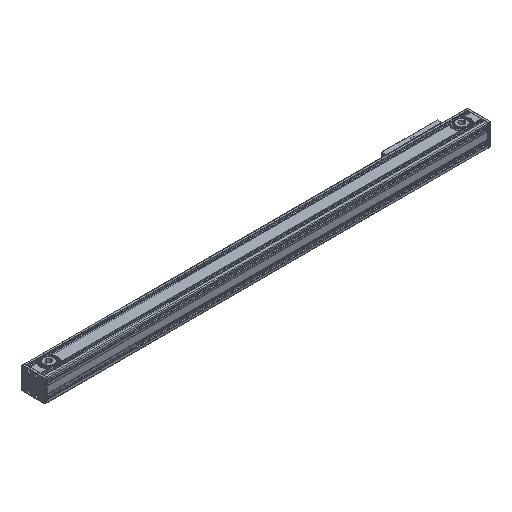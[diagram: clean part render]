
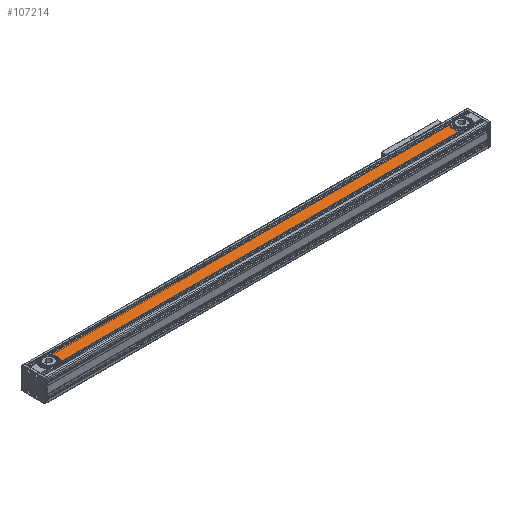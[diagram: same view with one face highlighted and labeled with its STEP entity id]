
A CAD part, isometric view. The second image highlights one B-rep face of the part: STEP entity #107214.
In plain terms, the highlighted planar face has unit normal (0, 0, 1).
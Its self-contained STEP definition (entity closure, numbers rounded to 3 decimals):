
#8891 = EDGE_CURVE ( 'NONE', #85697, #76551, #28688, .T. ) ;
#10035 = VECTOR ( 'NONE', #107902, 1000. ) ;
#19603 = DIRECTION ( 'NONE',  ( -1., 0., 0. ) ) ;
#21215 = VECTOR ( 'NONE', #19603, 1000. ) ;
#25401 = CARTESIAN_POINT ( 'NONE',  ( -164.672, 119.121, 83.366 ) ) ;
#27729 = VERTEX_POINT ( 'NONE', #112339 ) ;
#28688 = LINE ( 'NONE', #99982, #10035 ) ;
#29484 = LINE ( 'NONE', #109967, #21215 ) ;
#34642 = DIRECTION ( 'NONE',  ( 1., 0., 0. ) ) ;
#35258 = CIRCLE ( 'NONE', #58424, 31. ) ;
#39594 = DIRECTION ( 'NONE',  ( 1., 0., 0. ) ) ;
#55068 = PLANE ( 'NONE',  #71720 ) ;
#58424 = AXIS2_PLACEMENT_3D ( 'NONE', #114731, #102987, #83786 ) ;
#62938 = AXIS2_PLACEMENT_3D ( 'NONE', #129929, #110213, #39594 ) ;
#67347 = CARTESIAN_POINT ( 'NONE',  ( -91.244, 62.821, 83.366 ) ) ;
#71720 = AXIS2_PLACEMENT_3D ( 'NONE', #25401, #94742, #34642 ) ;
#76551 = VERTEX_POINT ( 'NONE', #121939 ) ;
#76916 = EDGE_CURVE ( 'NONE', #27729, #113781, #29484, .T. ) ;
#79914 = ORIENTED_EDGE ( 'NONE', *, *, #8891, .T. ) ;
#83188 = EDGE_CURVE ( 'NONE', #113781, #85697, #35258, .T. ) ;
#83786 = DIRECTION ( 'NONE',  ( -1., 0., 0. ) ) ;
#85697 = VERTEX_POINT ( 'NONE', #67347 ) ;
#90045 = ORIENTED_EDGE ( 'NONE', *, *, #83188, .T. ) ;
#91404 = ORIENTED_EDGE ( 'NONE', *, *, #111896, .F. ) ;
#94742 = DIRECTION ( 'NONE',  ( 0., 0., 1. ) ) ;
#98716 = CIRCLE ( 'NONE', #62938, 31. ) ;
#99982 = CARTESIAN_POINT ( 'NONE',  ( -164.672, 62.821, 83.366 ) ) ;
#102987 = DIRECTION ( 'NONE',  ( 0., 0., -1. ) ) ;
#107214 = ADVANCED_FACE ( 'NONE', ( #124337 ), #55068, .T. ) ;
#107902 = DIRECTION ( 'NONE',  ( 1., 0., 0. ) ) ;
#109967 = CARTESIAN_POINT ( 'NONE',  ( -164.672, 103.421, 83.366 ) ) ;
#110213 = DIRECTION ( 'NONE',  ( 0., 0., 1. ) ) ;
#111896 = EDGE_CURVE ( 'NONE', #27729, #76551, #98716, .T. ) ;
#112339 = CARTESIAN_POINT ( 'NONE',  ( 1331.899, 103.421, 83.366 ) ) ;
#113467 = ORIENTED_EDGE ( 'NONE', *, *, #76916, .T. ) ;
#113781 = VERTEX_POINT ( 'NONE', #125672 ) ;
#114731 = CARTESIAN_POINT ( 'NONE',  ( -114.672, 83.121, 83.366 ) ) ;
#121939 = CARTESIAN_POINT ( 'NONE',  ( 1331.899, 62.821, 83.366 ) ) ;
#122895 = EDGE_LOOP ( 'NONE', ( #79914, #91404, #113467, #90045 ) ) ;
#124337 = FACE_OUTER_BOUND ( 'NONE', #122895, .T. ) ;
#125672 = CARTESIAN_POINT ( 'NONE',  ( -91.244, 103.421, 83.366 ) ) ;
#129929 = CARTESIAN_POINT ( 'NONE',  ( 1355.328, 83.121, 83.366 ) ) ;
